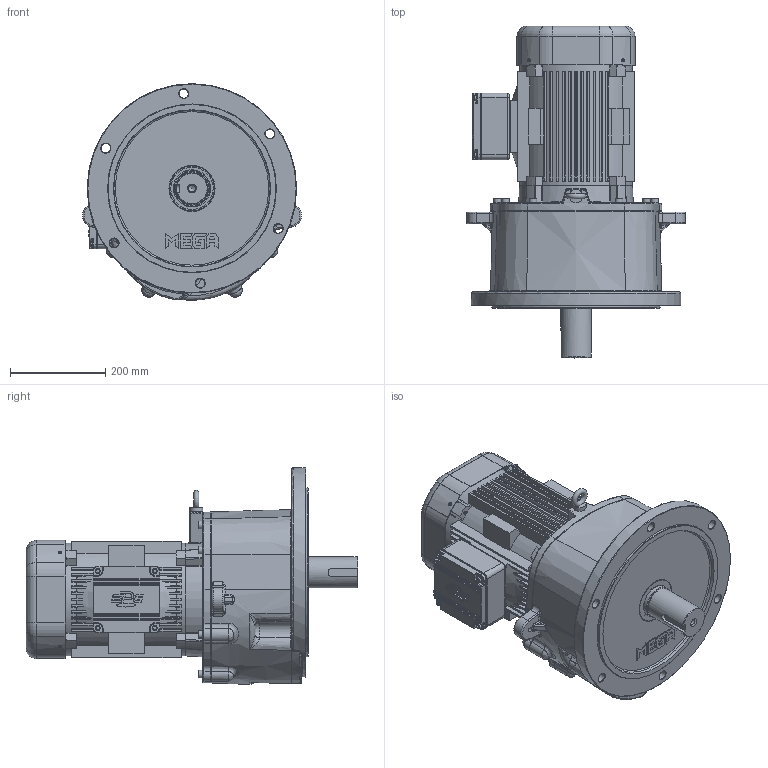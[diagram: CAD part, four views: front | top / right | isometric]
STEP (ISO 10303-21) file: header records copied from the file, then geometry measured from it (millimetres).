
FILE_DESCRIPTION(/* description */ (''),/* implementation_level */ '2;1');
FILE_NAME(/* name */ 'Z:\동력 3D 파일\PMK235_5.5kW_3D.stp',/* time_stamp */ '2021-12-01T14:40:00+09:00',/* author */ ('jaebok'),/* organization */ (''),/* preprocessor_version */ 'ST-DEVELOPER v18.1',/* originating_system */ 'Autodesk Inventor 2022',/* authorisation */ '');
FILE_SCHEMA (('AUTOMOTIVE_DESIGN { 1 0 10303 214 3 1 1 }'));
Products named in the file (1): 부품22
Bounding box: 459.83 x 698 x 455.2 mm (x, y, z)
Volume: 15666610.6 mm3; surface area: 2460693 mm2
Topology: 2 solids, 22 shells, 4256 faces, 10665 edges, 6483 vertices
Faces by surface type: plane 1318, bspline 1316, cylinder 846, torus 405, cone 225, sphere 146
Full cylindrical faces by diameter (mm): 4.134 x4, 4.917 x9, 5 x16, 6 x9, 6.5 x8, 6.647 x9, 7 x4, 8 x4, 8.376 x1, 9.5 x4, 10 x20, 10.106 x11, 12 x9, 13 x8, 13.2 x1, 13.835 x1, 15 x1, 16 x8, 19 x6, 20 x1, 28 x1, 32 x1, 34 x2, 50 x2, 55 x1, 60 x1, 62 x1, 65 x1, 70 x5, 72 x1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
Entity records: 158672 total; most frequent: CARTESIAN_POINT 61026, ORIENTED_EDGE 20936, DIRECTION 17041, EDGE_CURVE 10468, VERTEX_POINT 6479, AXIS2_PLACEMENT_3D 6441, EDGE_LOOP 4609, FACE_OUTER_BOUND 4256
